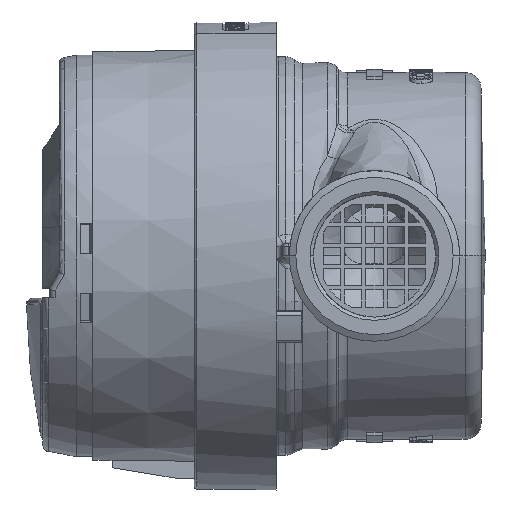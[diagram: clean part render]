
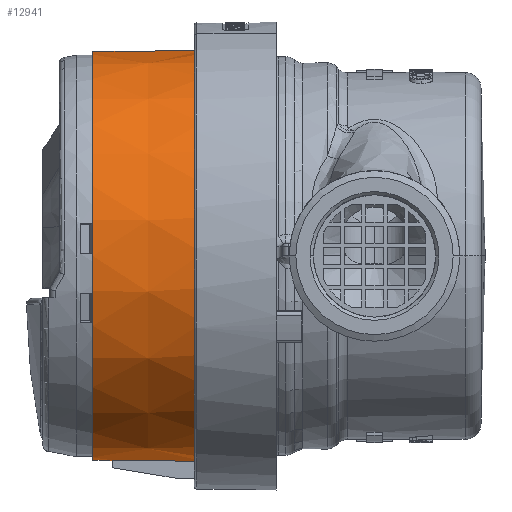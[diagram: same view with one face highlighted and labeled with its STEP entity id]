
A CAD part, left-side view. The second image highlights one B-rep face of the part: STEP entity #12941.
In plain terms, the highlighted conical face has half-angle 0.504 degrees and reference radius 31.9 mm.
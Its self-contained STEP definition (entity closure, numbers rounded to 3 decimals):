
#755 = CARTESIAN_POINT ( 'NONE',  ( 0., 60.275, -31.75 ) ) ;
#1155 = CARTESIAN_POINT ( 'NONE',  ( -1., 43.519, -31.882 ) ) ;
#3092 = EDGE_CURVE ( 'NONE', #45908, #28035, #15677, .T. ) ;
#3715 = VERTEX_POINT ( 'NONE', #13114 ) ;
#4462 = CARTESIAN_POINT ( 'NONE',  ( 0., 43.199, 0. ) ) ;
#5260 = CARTESIAN_POINT ( 'NONE',  ( 0., 43.199, 31.9 ) ) ;
#5996 = CIRCLE ( 'NONE', #35978, 31.777 ) ;
#6195 = CARTESIAN_POINT ( 'NONE',  ( 0., 57.225, -31.777 ) ) ;
#6351 = CIRCLE ( 'NONE', #13222, 31.75 ) ;
#8555 = EDGE_LOOP ( 'NONE', ( #22098, #48931, #21905, #11777, #29532, #19168 ) ) ;
#8692 = CARTESIAN_POINT ( 'NONE',  ( -1., 43.359, -31.883 ) ) ;
#8790 = FACE_OUTER_BOUND ( 'NONE', #8555, .T. ) ;
#8961 = CARTESIAN_POINT ( 'NONE',  ( -1., 48.345, -31.839 ) ) ;
#11528 = DIRECTION ( 'NONE',  ( 0., -1., 0. ) ) ;
#11777 = ORIENTED_EDGE ( 'NONE', *, *, #3092, .T. ) ;
#12941 = ADVANCED_FACE ( 'NONE', ( #8790 ), #31412, .T. ) ;
#12986 = CARTESIAN_POINT ( 'NONE',  ( -1., 57.225, -31.761 ) ) ;
#13024 = VERTEX_POINT ( 'NONE', #5260 ) ;
#13092 = CARTESIAN_POINT ( 'NONE',  ( -1., 43.199, -31.884 ) ) ;
#13114 = CARTESIAN_POINT ( 'NONE',  ( 0., 60.275, 31.75 ) ) ;
#13222 = AXIS2_PLACEMENT_3D ( 'NONE', #28917, #16854, #40963 ) ;
#15217 = EDGE_CURVE ( 'NONE', #45908, #41014, #5996, .T. ) ;
#15677 = B_SPLINE_CURVE_WITH_KNOTS ( 'NONE', 3,
 ( #12986, #34130, #33883, #45357, #8961, #50392, #30137, #1155, #8692, #17261 ),
 .UNSPECIFIED., .F., .F.,
 ( 4, 3, 3, 4 ),
 ( -0.007, 0., 0.007, 0.007 ),
 .UNSPECIFIED. ) ;
#16854 = DIRECTION ( 'NONE',  ( 0., -1., 0. ) ) ;
#17261 = CARTESIAN_POINT ( 'NONE',  ( -1., 43.199, -31.884 ) ) ;
#19168 = ORIENTED_EDGE ( 'NONE', *, *, #43899, .F. ) ;
#19947 = AXIS2_PLACEMENT_3D ( 'NONE', #35667, #23352, #27626 ) ;
#20323 = DIRECTION ( 'NONE',  ( 0., -1., 0. ) ) ;
#20835 = CIRCLE ( 'NONE', #19947, 31.9 ) ;
#21905 = ORIENTED_EDGE ( 'NONE', *, *, #15217, .F. ) ;
#22098 = ORIENTED_EDGE ( 'NONE', *, *, #50826, .T. ) ;
#23352 = DIRECTION ( 'NONE',  ( 0., -1., 0. ) ) ;
#24362 = DIRECTION ( 'NONE',  ( 0., -1., -0.009 ) ) ;
#27626 = DIRECTION ( 'NONE',  ( 0., 0., 1. ) ) ;
#28035 = VERTEX_POINT ( 'NONE', #13092 ) ;
#28354 = CARTESIAN_POINT ( 'NONE',  ( 0., 43.199, -31.9 ) ) ;
#28651 = CARTESIAN_POINT ( 'NONE',  ( 0., 57.225, 0. ) ) ;
#28917 = CARTESIAN_POINT ( 'NONE',  ( 0., 60.275, 0. ) ) ;
#29532 = ORIENTED_EDGE ( 'NONE', *, *, #50080, .F. ) ;
#30137 = CARTESIAN_POINT ( 'NONE',  ( -1., 43.679, -31.88 ) ) ;
#31017 = DIRECTION ( 'NONE',  ( 0., -1., 0.009 ) ) ;
#31412 = CONICAL_SURFACE ( 'NONE', #45042, 31.9, 0.009 ) ;
#32015 = VERTEX_POINT ( 'NONE', #755 ) ;
#33883 = CARTESIAN_POINT ( 'NONE',  ( -1., 52.86, -31.799 ) ) ;
#34130 = CARTESIAN_POINT ( 'NONE',  ( -1., 55.043, -31.78 ) ) ;
#35667 = CARTESIAN_POINT ( 'NONE',  ( 0., 43.199, 0. ) ) ;
#35978 = AXIS2_PLACEMENT_3D ( 'NONE', #28651, #11528, #48705 ) ;
#38454 = VECTOR ( 'NONE', #24362, 1000. ) ;
#38777 = CARTESIAN_POINT ( 'NONE',  ( 0., 43.199, 31.9 ) ) ;
#40618 = EDGE_CURVE ( 'NONE', #32015, #41014, #52650, .T. ) ;
#40963 = DIRECTION ( 'NONE',  ( 0., 0., 1. ) ) ;
#41014 = VERTEX_POINT ( 'NONE', #6195 ) ;
#43297 = LINE ( 'NONE', #38777, #49837 ) ;
#43899 = EDGE_CURVE ( 'NONE', #3715, #13024, #43297, .T. ) ;
#45042 = AXIS2_PLACEMENT_3D ( 'NONE', #4462, #20323, #48925 ) ;
#45357 = CARTESIAN_POINT ( 'NONE',  ( -1., 50.678, -31.819 ) ) ;
#45908 = VERTEX_POINT ( 'NONE', #52279 ) ;
#48705 = DIRECTION ( 'NONE',  ( 0., 0., -1. ) ) ;
#48925 = DIRECTION ( 'NONE',  ( 0., 0., 1. ) ) ;
#48931 = ORIENTED_EDGE ( 'NONE', *, *, #40618, .T. ) ;
#49837 = VECTOR ( 'NONE', #31017, 1000. ) ;
#50080 = EDGE_CURVE ( 'NONE', #13024, #28035, #20835, .T. ) ;
#50392 = CARTESIAN_POINT ( 'NONE',  ( -1., 46.012, -31.86 ) ) ;
#50826 = EDGE_CURVE ( 'NONE', #3715, #32015, #6351, .T. ) ;
#52279 = CARTESIAN_POINT ( 'NONE',  ( -1., 57.225, -31.761 ) ) ;
#52650 = LINE ( 'NONE', #28354, #38454 ) ;
